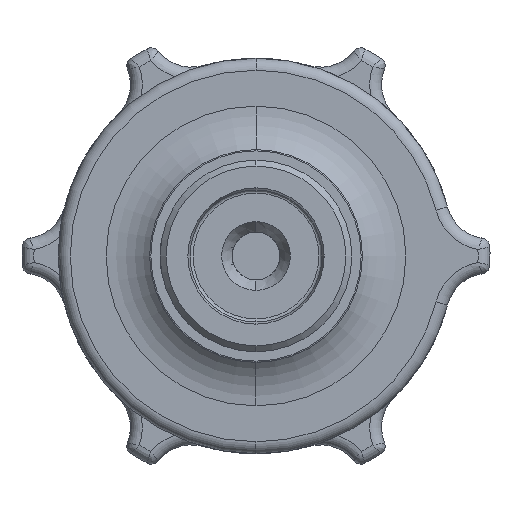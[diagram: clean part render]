
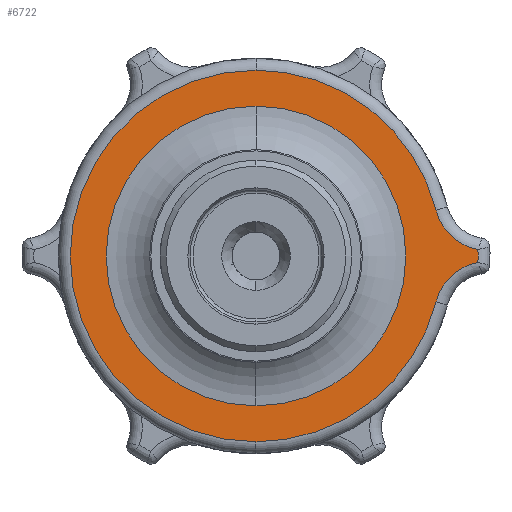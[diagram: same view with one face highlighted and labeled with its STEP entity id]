
A CAD part, left-side view. The second image highlights one B-rep face of the part: STEP entity #6722.
In plain terms, the highlighted planar face has unit normal (-1, 0, 0).
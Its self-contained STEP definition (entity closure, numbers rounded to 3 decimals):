
#74 = DIRECTION ( 'NONE',  ( 0., 0., -1. ) ) ;
#79 = EDGE_CURVE ( 'NONE', #2639, #9746, #1828, .T. ) ;
#279 = CIRCLE ( 'NONE', #7654, 25. ) ;
#424 = ORIENTED_EDGE ( 'NONE', *, *, #2239, .T. ) ;
#484 = ORIENTED_EDGE ( 'NONE', *, *, #12720, .T. ) ;
#798 = DIRECTION ( 'NONE',  ( -1., 0., 0. ) ) ;
#817 = CARTESIAN_POINT ( 'NONE',  ( -767.5, 0., 0. ) ) ;
#855 = CARTESIAN_POINT ( 'NONE',  ( -767.5, 0., 0. ) ) ;
#935 = DIRECTION ( 'NONE',  ( 0., 0., -1. ) ) ;
#1017 = AXIS2_PLACEMENT_3D ( 'NONE', #817, #12337, #9944 ) ;
#1366 = VERTEX_POINT ( 'NONE', #14636 ) ;
#1653 = DIRECTION ( 'NONE',  ( 0., 0., -1. ) ) ;
#1687 = ORIENTED_EDGE ( 'NONE', *, *, #7599, .T. ) ;
#1828 = CIRCLE ( 'NONE', #1017, 25. ) ;
#1863 = AXIS2_PLACEMENT_3D ( 'NONE', #12233, #798, #16604 ) ;
#1986 = DIRECTION ( 'NONE',  ( -1., 0., 0. ) ) ;
#1997 = FACE_BOUND ( 'NONE', #10077, .T. ) ;
#2239 = EDGE_CURVE ( 'NONE', #1366, #3374, #14952, .T. ) ;
#2639 = VERTEX_POINT ( 'NONE', #5448 ) ;
#3077 = VERTEX_POINT ( 'NONE', #13002 ) ;
#3312 = AXIS2_PLACEMENT_3D ( 'NONE', #7366, #4975, #74 ) ;
#3374 = VERTEX_POINT ( 'NONE', #10414 ) ;
#3410 = DIRECTION ( 'NONE',  ( -1., 0., 0. ) ) ;
#3800 = AXIS2_PLACEMENT_3D ( 'NONE', #855, #13900, #6052 ) ;
#4388 = DIRECTION ( 'NONE',  ( 0., 0., -1. ) ) ;
#4468 = DIRECTION ( 'NONE',  ( 1., 0., 0. ) ) ;
#4975 = DIRECTION ( 'NONE',  ( -1., 0., 0. ) ) ;
#5219 = AXIS2_PLACEMENT_3D ( 'NONE', #8704, #3410, #935 ) ;
#5448 = CARTESIAN_POINT ( 'NONE',  ( -767.5, 0., 25. ) ) ;
#5521 = CIRCLE ( 'NONE', #15081, 9. ) ;
#5573 = CARTESIAN_POINT ( 'NONE',  ( -767.5, -38.753, -9.91 ) ) ;
#5781 = EDGE_CURVE ( 'NONE', #3077, #9514, #10701, .T. ) ;
#5808 = DIRECTION ( 'NONE',  ( 1., 0., 0. ) ) ;
#6051 = DIRECTION ( 'NONE',  ( 0., 0., -1. ) ) ;
#6052 = DIRECTION ( 'NONE',  ( 0., 0., -1. ) ) ;
#6279 = ORIENTED_EDGE ( 'NONE', *, *, #5781, .T. ) ;
#6526 = ORIENTED_EDGE ( 'NONE', *, *, #79, .T. ) ;
#6722 = ADVANCED_FACE ( 'NONE', ( #13682, #1997 ), #8574, .T. ) ;
#7366 = CARTESIAN_POINT ( 'NONE',  ( -767.5, -18.76, -0.75 ) ) ;
#7599 = EDGE_CURVE ( 'NONE', #3374, #3077, #5521, .T. ) ;
#7654 = AXIS2_PLACEMENT_3D ( 'NONE', #15051, #8563, #15222 ) ;
#8563 = DIRECTION ( 'NONE',  ( 1., 0., 0. ) ) ;
#8574 = PLANE ( 'NONE',  #3312 ) ;
#8704 = CARTESIAN_POINT ( 'NONE',  ( -767.5, 0., 0. ) ) ;
#8710 = CIRCLE ( 'NONE', #1863, 31. ) ;
#9514 = VERTEX_POINT ( 'NONE', #10266 ) ;
#9746 = VERTEX_POINT ( 'NONE', #16119 ) ;
#9944 = DIRECTION ( 'NONE',  ( 0., 0., -1. ) ) ;
#10077 = EDGE_LOOP ( 'NONE', ( #484, #6526 ) ) ;
#10117 = CIRCLE ( 'NONE', #13103, 9. ) ;
#10266 = CARTESIAN_POINT ( 'NONE',  ( -767.5, 0., 31. ) ) ;
#10414 = CARTESIAN_POINT ( 'NONE',  ( -767.5, -37.034, 1.076 ) ) ;
#10701 = CIRCLE ( 'NONE', #5219, 31. ) ;
#12233 = CARTESIAN_POINT ( 'NONE',  ( -767.5, 0., 0. ) ) ;
#12244 = CARTESIAN_POINT ( 'NONE',  ( -767.5, 0., -31. ) ) ;
#12337 = DIRECTION ( 'NONE',  ( 1., 0., 0. ) ) ;
#12720 = EDGE_CURVE ( 'NONE', #9746, #2639, #279, .T. ) ;
#12814 = CARTESIAN_POINT ( 'NONE',  ( -767.5, -30.034, -7.68 ) ) ;
#12823 = ORIENTED_EDGE ( 'NONE', *, *, #13287, .T. ) ;
#13002 = CARTESIAN_POINT ( 'NONE',  ( -767.5, -30.034, 7.68 ) ) ;
#13103 = AXIS2_PLACEMENT_3D ( 'NONE', #5573, #4468, #4388 ) ;
#13287 = EDGE_CURVE ( 'NONE', #14595, #15904, #16911, .T. ) ;
#13326 = CARTESIAN_POINT ( 'NONE',  ( -767.5, 0., 0. ) ) ;
#13682 = FACE_OUTER_BOUND ( 'NONE', #14825, .T. ) ;
#13900 = DIRECTION ( 'NONE',  ( -1., 0., 0. ) ) ;
#14595 = VERTEX_POINT ( 'NONE', #12244 ) ;
#14636 = CARTESIAN_POINT ( 'NONE',  ( -767.5, -37.034, -1.076 ) ) ;
#14825 = EDGE_LOOP ( 'NONE', ( #424, #1687, #6279, #16339, #12823, #16207 ) ) ;
#14952 = CIRCLE ( 'NONE', #16876, 37.05 ) ;
#15051 = CARTESIAN_POINT ( 'NONE',  ( -767.5, 0., 0. ) ) ;
#15081 = AXIS2_PLACEMENT_3D ( 'NONE', #16578, #5808, #6051 ) ;
#15222 = DIRECTION ( 'NONE',  ( 0., 0., -1. ) ) ;
#15577 = EDGE_CURVE ( 'NONE', #15904, #1366, #10117, .T. ) ;
#15904 = VERTEX_POINT ( 'NONE', #12814 ) ;
#16119 = CARTESIAN_POINT ( 'NONE',  ( -767.5, 0., -25. ) ) ;
#16207 = ORIENTED_EDGE ( 'NONE', *, *, #15577, .T. ) ;
#16251 = EDGE_CURVE ( 'NONE', #9514, #14595, #8710, .T. ) ;
#16339 = ORIENTED_EDGE ( 'NONE', *, *, #16251, .T. ) ;
#16578 = CARTESIAN_POINT ( 'NONE',  ( -767.5, -38.753, 9.91 ) ) ;
#16604 = DIRECTION ( 'NONE',  ( 0., 0., -1. ) ) ;
#16876 = AXIS2_PLACEMENT_3D ( 'NONE', #13326, #1986, #1653 ) ;
#16911 = CIRCLE ( 'NONE', #3800, 31. ) ;
